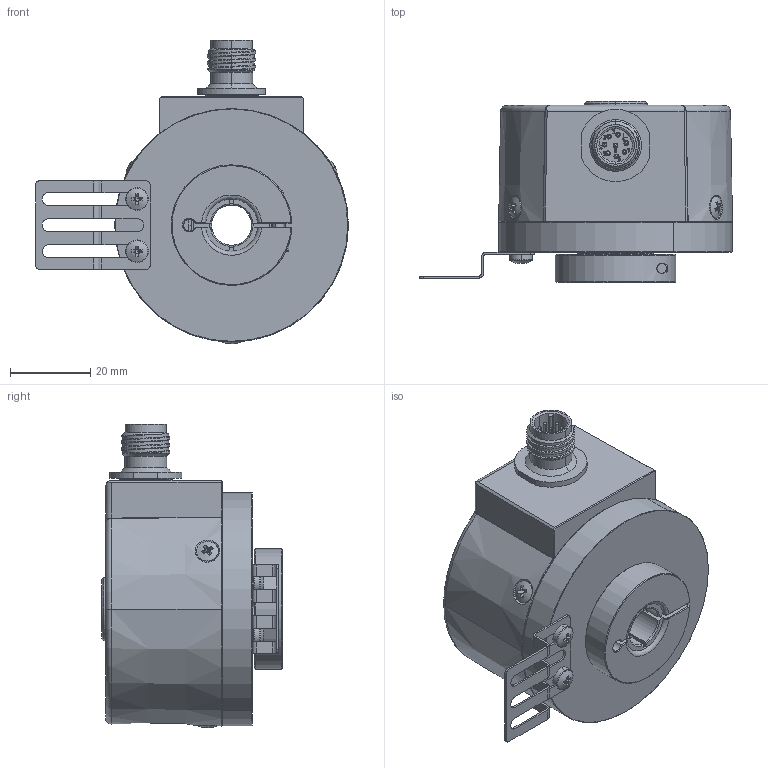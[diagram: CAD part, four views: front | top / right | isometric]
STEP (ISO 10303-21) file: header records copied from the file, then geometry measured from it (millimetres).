
FILE_DESCRIPTION (( 'STEP AP214' ), '1' );
FILE_NAME ('BSP0M7xTx.STEP', '2023-09-11T07:48:29', ( '' ), ( '' ), 'SwSTEP 2.0', 'SolidWorks 2019', '' );
FILE_SCHEMA (( 'AUTOMOTIVE_DESIGN' ));
Length unit declared in the file: millimetre
Products named in the file (1): BSP0M7xTx
Bounding box: 77.82 x 45 x 75.53 mm (x, y, z)
Volume: 63867 mm3; surface area: 34832 mm2
Topology: 1 solids, 15 shells, 1210 faces, 2858 edges, 1753 vertices
Faces by surface type: plane 318, cylinder 281, cone 237, bspline 187, sphere 168, torus 19
Entity records: 59338 total; most frequent: CARTESIAN_POINT 19784, ORIENTED_EDGE 5592, DIRECTION 5135, EDGE_CURVE 2796, AXIS2_PLACEMENT_3D 2077, VERTEX_POINT 1737, EDGE_LOOP 1379, UNCERTAINTY_MEASURE_WITH_UNIT 1213
